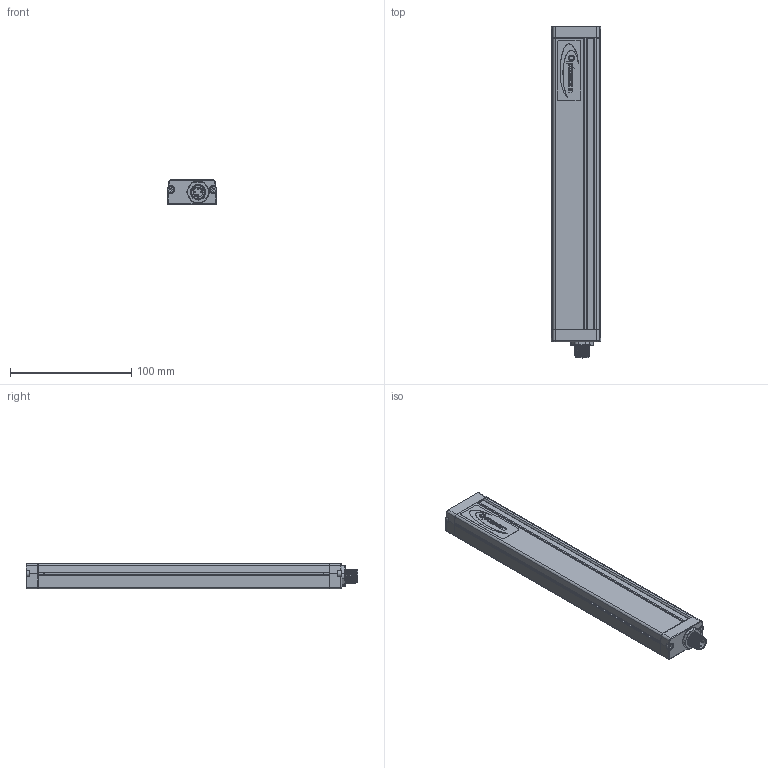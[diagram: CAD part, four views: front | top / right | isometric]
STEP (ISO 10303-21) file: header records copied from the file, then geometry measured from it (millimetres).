
FILE_DESCRIPTION(/* description */ (''),/* implementation_level */ '2;1');
FILE_NAME(/* name */ 'C:\Users\andre\SynologyDrive\Optoscan\Libreria Componenti\00 - Barriere\Barriera sorgente\Argo_240_RX.stp',/* time_stamp */ '2021-04-22T11:52:21+02:00',/* author */ ('andre'),/* organization */ (''),/* preprocessor_version */ 'ST-DEVELOPER v18',/* originating_system */ 'Autodesk Inventor 2020',/* authorisation */ '');
FILE_SCHEMA (('AUTOMOTIVE_DESIGN { 1 0 10303 214 3 1 1 }'));
Length unit declared in the file: millimetre
Products named in the file (1): Argo_240_RX
Bounding box: 40.5 x 273.3 x 20.75 mm (x, y, z)
Volume: 58216.9 mm3; surface area: 71710.5 mm2
Topology: 1 solids, 1 shells, 692 faces, 1898 edges, 1217 vertices
Faces by surface type: plane 319, cylinder 195, bspline 94, torus 70, cone 8, sphere 6
Full cylindrical faces by diameter (mm): 1 x4, 2.459 x4, 2.5 x4, 3 x4, 3.5 x4, 5.5 x4, 8 x1, 10.5 x2, 11.75 x9, 15.7 x1, 17.5 x1
Entity records: 28165 total; most frequent: CARTESIAN_POINT 10195, ORIENTED_EDGE 3778, DIRECTION 3387, EDGE_CURVE 1889, VERTEX_POINT 1217, AXIS2_PLACEMENT_3D 1183, LINE 1021, VECTOR 1021
